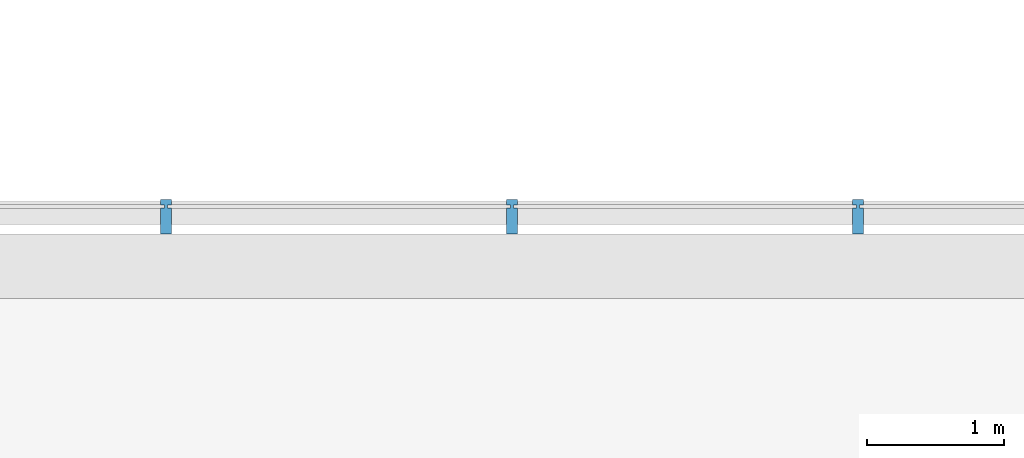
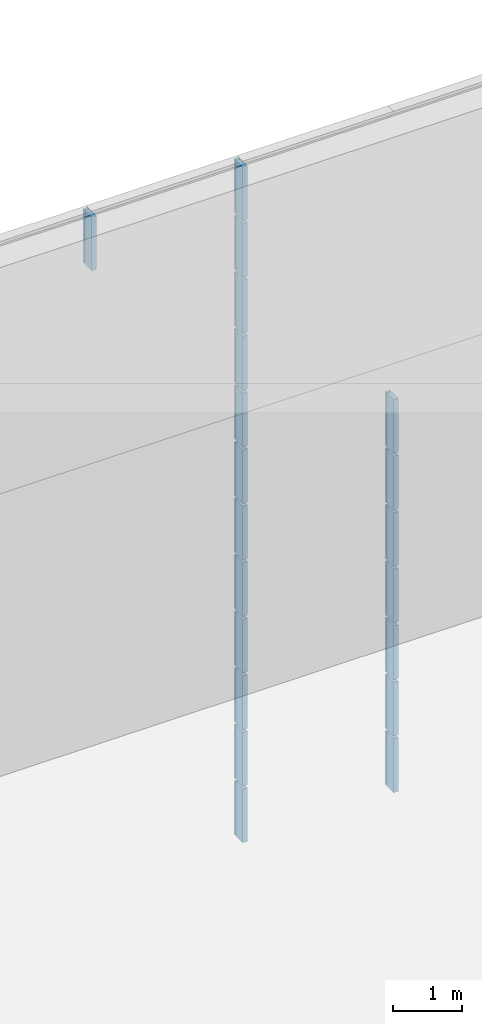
# One storey, part 91 of 105: 20 building element parts, 4 elements without a shape of their own.
"""IFC4 building model written with IfcOpenShell, lengths in millimetres."""

from ifc_helpers import new_model, entity, si_unit, converted_unit, derived_unit, direction, frame, origin_with_axes, place, context, subcontext, project, spatial, triangles, material, element, aggregate, save


model = new_model("IFC4")

# Units and contexts
model_context = context("Model", 3, precision=1e-05, world=origin_with_axes(), true_north=direction((0.0, 1.0)))
body_context = subcontext(model_context, "Body", "Model", "MODEL_VIEW")
ifc_project = project(units=[si_unit("LENGTHUNIT", "METRE", prefix="MILLI"), si_unit("AREAUNIT", "SQUARE_METRE"), si_unit("VOLUMEUNIT", "CUBIC_METRE"), converted_unit("PLANEANGLEUNIT", "DEGREE", entity("IfcLengthMeasure", 0.017453), si_unit("PLANEANGLEUNIT", "RADIAN"), dimensions=[0, 0, 0, 0, 0, 0, 0]), si_unit("SOLIDANGLEUNIT", "STERADIAN"), si_unit("MASSUNIT", "GRAM"), si_unit("TIMEUNIT", "SECOND"), si_unit("THERMODYNAMICTEMPERATUREUNIT", "DEGREE_CELSIUS"), si_unit("LUMINOUSINTENSITYUNIT", "LUMEN"), si_unit("POWERUNIT", "WATT"), derived_unit("THERMALTRANSMITTANCEUNIT", [(si_unit("POWERUNIT", "WATT"), 1), (si_unit("THERMODYNAMICTEMPERATUREUNIT", "KELVIN"), -1), (si_unit("AREAUNIT", "SQUARE_METRE"), -1)])], contexts=[model_context])

# Site, building, storey
site_placement = place(None, origin_with_axes())
site = spatial("IfcSite", under=ifc_project, at=site_placement, Name="Default Site", CompositionType="ELEMENT")
building_placement = place(site_placement, origin_with_axes())
building = spatial("IfcBuilding", under=site, at=building_placement, Name="Default Building", CompositionType="ELEMENT")
storey_placement = place(building_placement, origin_with_axes())
storey = spatial("IfcBuildingStorey", under=building, at=storey_placement, Name="OG - Story", CompositionType="ELEMENT", Elevation=0.0)

# Curtain wall, building element parts
curtain_wall_1_placement = place(storey_placement, origin_with_axes())
curtain_wall_1 = element("IfcCurtainWall", 1, at=curtain_wall_1_placement, inside=storey, Name="Fassade-004", PredefinedType="NOTDEFINED")
ifc_material = material(Name="Blech")
building_element_part_1_placement = place(curtain_wall_1_placement, frame((33014.549222, -4389.262838, 0.0), z_axis=(0.0, 0.0, 1.0), x_axis=(1.0, 0.0, 0.0)))
building_element_part_1 = element("IfcBuildingElementPart", 2, at=building_element_part_1_placement, material=ifc_material, Name="Blech", PredefinedType="NOTDEFINED", context=body_context, shape_type="Tessellation", body=[
    triangles([(26566.316, -9.999, 975.0), (26566.316, -199.999, 975.0), (26536.316, -9.999, 975.0), (26516.316, -9.999, 975.0), (26536.316, 10.0, 975.0), (26566.316, 50.0, 975.0), (26566.316, 10.0, 975.0), (26486.316, -199.999, 975.0), (26486.316, -9.999, 975.0), (26516.316, 10.0, 975.0), (26486.316, 10.0, 975.0), (26486.316, 50.0, 975.0), (26536.316, -9.999, 25.0), (26536.316, 10.0, 25.0), (26566.316, 10.0, 25.0), (26566.316, 50.0, 25.0), (26486.316, 50.0, 25.0), (26486.316, 10.0, 25.0), (26516.316, 10.0, 25.0), (26516.316, -9.999, 25.0), (26486.316, -9.999, 25.0), (26486.316, -199.999, 25.0), (26566.316, -199.999, 25.0), (26566.316, -9.999, 25.0)], [[1, 2, 3], [3, 2, 4], [3, 4, 5], [5, 4, 6], [5, 6, 7], [8, 9, 4], [8, 4, 2], [6, 4, 10], [6, 10, 11], [6, 11, 12], [3, 13, 14], [3, 14, 5], [5, 14, 15], [5, 15, 7], [15, 16, 6], [15, 6, 7], [12, 6, 16], [12, 16, 17], [18, 11, 12], [18, 12, 17], [11, 18, 19], [11, 19, 10], [4, 10, 19], [4, 19, 20], [9, 4, 20], [9, 20, 21], [9, 21, 22], [9, 22, 8], [2, 8, 22], [2, 22, 23], [1, 2, 23], [1, 23, 24], [1, 24, 13], [1, 13, 3], [15, 16, 14], [14, 16, 19], [14, 19, 13], [13, 19, 23], [13, 23, 24], [17, 18, 19], [17, 19, 16], [23, 19, 20], [23, 20, 21], [23, 21, 22]], closed=False),
])
building_element_part_2_placement = place(curtain_wall_1_placement, frame((33014.549222, -4389.262838, 0.0), z_axis=(0.0, 0.0, 1.0), x_axis=(1.0, 0.0, 0.0)))
building_element_part_2 = element("IfcBuildingElementPart", 3, at=building_element_part_2_placement, material=ifc_material, Name="Blech", PredefinedType="NOTDEFINED", context=body_context, shape_type="Tessellation", body=[
    triangles([(29092.632, -9.999, 975.0), (29092.632, -199.999, 975.0), (29062.632, -9.999, 975.0), (29042.632, -9.999, 975.0), (29062.632, 10.0, 975.0), (29092.632, 50.0, 975.0), (29092.632, 10.0, 975.0), (29012.632, -199.999, 975.0), (29012.632, -9.999, 975.0), (29042.632, 10.0, 975.0), (29012.632, 10.0, 975.0), (29012.632, 50.0, 975.0), (29062.632, -9.999, 25.0), (29062.632, 10.0, 25.0), (29092.632, 10.0, 25.0), (29092.632, 50.0, 25.0), (29012.632, 50.0, 25.0), (29012.632, 10.0, 25.0), (29042.632, 10.0, 25.0), (29042.632, -9.999, 25.0), (29012.632, -9.999, 25.0), (29012.632, -199.999, 25.0), (29092.632, -199.999, 25.0), (29092.632, -9.999, 25.0)], [[1, 2, 3], [3, 2, 4], [3, 4, 5], [5, 4, 6], [5, 6, 7], [8, 9, 4], [8, 4, 2], [6, 4, 10], [6, 10, 11], [6, 11, 12], [3, 13, 14], [3, 14, 5], [5, 14, 15], [5, 15, 7], [15, 16, 6], [15, 6, 7], [12, 6, 16], [12, 16, 17], [18, 11, 12], [18, 12, 17], [11, 18, 19], [11, 19, 10], [4, 10, 19], [4, 19, 20], [9, 4, 20], [9, 20, 21], [9, 21, 22], [9, 22, 8], [2, 8, 22], [2, 22, 23], [1, 2, 23], [1, 23, 24], [1, 24, 13], [1, 13, 3], [15, 16, 14], [14, 16, 19], [14, 19, 13], [13, 19, 23], [13, 23, 24], [17, 18, 19], [17, 19, 16], [23, 19, 20], [23, 20, 21], [23, 21, 22]], closed=False),
])
building_element_part_3_placement = place(curtain_wall_1_placement, frame((33014.549222, -4389.262838, 0.0), z_axis=(0.0, 0.0, 1.0), x_axis=(1.0, 0.0, 0.0)))
building_element_part_3 = element("IfcBuildingElementPart", 4, at=building_element_part_3_placement, material=ifc_material, Name="Blech", PredefinedType="NOTDEFINED", context=body_context, shape_type="Tessellation", body=[
    triangles([(26566.316, -9.999, 1975.0), (26566.316, -199.999, 1975.0), (26536.316, -9.999, 1975.0), (26516.316, -9.999, 1975.0), (26536.316, 10.0, 1975.0), (26566.316, 50.0, 1975.0), (26566.316, 10.0, 1975.0), (26486.316, -199.999, 1975.0), (26486.316, -9.999, 1975.0), (26516.316, 10.0, 1975.0), (26486.316, 10.0, 1975.0), (26486.316, 50.0, 1975.0), (26536.316, -9.999, 1025.0), (26536.316, 10.0, 1025.0), (26566.316, 10.0, 1025.0), (26566.316, 50.0, 1025.0), (26486.316, 50.0, 1025.0), (26486.316, 10.0, 1025.0), (26516.316, 10.0, 1025.0), (26516.316, -9.999, 1025.0), (26486.316, -9.999, 1025.0), (26486.316, -199.999, 1025.0), (26566.316, -199.999, 1025.0), (26566.316, -9.999, 1025.0)], [[1, 2, 3], [3, 2, 4], [3, 4, 5], [5, 4, 6], [5, 6, 7], [8, 9, 4], [8, 4, 2], [6, 4, 10], [6, 10, 11], [6, 11, 12], [3, 13, 14], [3, 14, 5], [5, 14, 15], [5, 15, 7], [15, 16, 6], [15, 6, 7], [12, 6, 16], [12, 16, 17], [18, 11, 12], [18, 12, 17], [11, 18, 19], [11, 19, 10], [4, 10, 19], [4, 19, 20], [9, 4, 20], [9, 20, 21], [9, 21, 22], [9, 22, 8], [2, 8, 22], [2, 22, 23], [1, 2, 23], [1, 23, 24], [1, 24, 13], [1, 13, 3], [15, 16, 14], [14, 16, 19], [14, 19, 13], [13, 19, 23], [13, 23, 24], [17, 18, 19], [17, 19, 16], [23, 19, 20], [23, 20, 21], [23, 21, 22]], closed=False),
])
building_element_part_4_placement = place(curtain_wall_1_placement, frame((33014.549222, -4389.262838, 0.0), z_axis=(0.0, 0.0, 1.0), x_axis=(1.0, 0.0, 0.0)))
building_element_part_4 = element("IfcBuildingElementPart", 5, at=building_element_part_4_placement, material=ifc_material, Name="Blech", PredefinedType="NOTDEFINED", context=body_context, shape_type="Tessellation", body=[
    triangles([(29092.632, -9.999, 1975.0), (29092.632, -199.999, 1975.0), (29062.632, -9.999, 1975.0), (29042.632, -9.999, 1975.0), (29062.632, 10.0, 1975.0), (29092.632, 50.0, 1975.0), (29092.632, 10.0, 1975.0), (29012.632, -199.999, 1975.0), (29012.632, -9.999, 1975.0), (29042.632, 10.0, 1975.0), (29012.632, 10.0, 1975.0), (29012.632, 50.0, 1975.0), (29062.632, -9.999, 1025.0), (29062.632, 10.0, 1025.0), (29092.632, 10.0, 1025.0), (29092.632, 50.0, 1025.0), (29012.632, 50.0, 1025.0), (29012.632, 10.0, 1025.0), (29042.632, 10.0, 1025.0), (29042.632, -9.999, 1025.0), (29012.632, -9.999, 1025.0), (29012.632, -199.999, 1025.0), (29092.632, -199.999, 1025.0), (29092.632, -9.999, 1025.0)], [[1, 2, 3], [3, 2, 4], [3, 4, 5], [5, 4, 6], [5, 6, 7], [8, 9, 4], [8, 4, 2], [6, 4, 10], [6, 10, 11], [6, 11, 12], [3, 13, 14], [3, 14, 5], [5, 14, 15], [5, 15, 7], [15, 16, 6], [15, 6, 7], [12, 6, 16], [12, 16, 17], [18, 11, 12], [18, 12, 17], [11, 18, 19], [11, 19, 10], [4, 10, 19], [4, 19, 20], [9, 4, 20], [9, 20, 21], [9, 21, 22], [9, 22, 8], [2, 8, 22], [2, 22, 23], [1, 2, 23], [1, 23, 24], [1, 24, 13], [1, 13, 3], [15, 16, 14], [14, 16, 19], [14, 19, 13], [13, 19, 23], [13, 23, 24], [17, 18, 19], [17, 19, 16], [23, 19, 20], [23, 20, 21], [23, 21, 22]], closed=False),
])
building_element_part_5_placement = place(curtain_wall_1_placement, frame((33014.549222, -4389.262838, 0.0), z_axis=(0.0, 0.0, 1.0), x_axis=(1.0, 0.0, 0.0)))
building_element_part_5 = element("IfcBuildingElementPart", 6, at=building_element_part_5_placement, material=ifc_material, Name="Blech", PredefinedType="NOTDEFINED", context=body_context, shape_type="Tessellation", body=[
    triangles([(26566.316, -9.999, 2975.0), (26566.316, -199.999, 2975.0), (26536.316, -9.999, 2975.0), (26516.316, -9.999, 2975.0), (26536.316, 10.0, 2975.0), (26566.316, 50.0, 2975.0), (26566.316, 10.0, 2975.0), (26486.316, -199.999, 2975.0), (26486.316, -9.999, 2975.0), (26516.316, 10.0, 2975.0), (26486.316, 10.0, 2975.0), (26486.316, 50.0, 2975.0), (26536.316, -9.999, 2025.0), (26536.316, 10.0, 2025.0), (26566.316, 10.0, 2025.0), (26566.316, 50.0, 2025.0), (26486.316, 50.0, 2025.0), (26486.316, 10.0, 2025.0), (26516.316, 10.0, 2025.0), (26516.316, -9.999, 2025.0), (26486.316, -9.999, 2025.0), (26486.316, -199.999, 2025.0), (26566.316, -199.999, 2025.0), (26566.316, -9.999, 2025.0)], [[1, 2, 3], [3, 2, 4], [3, 4, 5], [5, 4, 6], [5, 6, 7], [8, 9, 4], [8, 4, 2], [6, 4, 10], [6, 10, 11], [6, 11, 12], [3, 13, 14], [3, 14, 5], [5, 14, 15], [5, 15, 7], [15, 16, 6], [15, 6, 7], [12, 6, 16], [12, 16, 17], [18, 11, 12], [18, 12, 17], [11, 18, 19], [11, 19, 10], [4, 10, 19], [4, 19, 20], [9, 4, 20], [9, 20, 21], [9, 21, 22], [9, 22, 8], [2, 8, 22], [2, 22, 23], [1, 2, 23], [1, 23, 24], [1, 24, 13], [1, 13, 3], [15, 16, 14], [14, 16, 19], [14, 19, 13], [13, 19, 23], [13, 23, 24], [17, 18, 19], [17, 19, 16], [23, 19, 20], [23, 20, 21], [23, 21, 22]], closed=False),
])
building_element_part_6_placement = place(curtain_wall_1_placement, frame((33014.549222, -4389.262838, 0.0), z_axis=(0.0, 0.0, 1.0), x_axis=(1.0, 0.0, 0.0)))
building_element_part_6 = element("IfcBuildingElementPart", 7, at=building_element_part_6_placement, material=ifc_material, Name="Blech", PredefinedType="NOTDEFINED", context=body_context, shape_type="Tessellation", body=[
    triangles([(29092.632, -9.999, 2975.0), (29092.632, -199.999, 2975.0), (29062.632, -9.999, 2975.0), (29042.632, -9.999, 2975.0), (29062.632, 10.0, 2975.0), (29092.632, 50.0, 2975.0), (29092.632, 10.0, 2975.0), (29012.632, -199.999, 2975.0), (29012.632, -9.999, 2975.0), (29042.632, 10.0, 2975.0), (29012.632, 10.0, 2975.0), (29012.632, 50.0, 2975.0), (29062.632, -9.999, 2025.0), (29062.632, 10.0, 2025.0), (29092.632, 10.0, 2025.0), (29092.632, 50.0, 2025.0), (29012.632, 50.0, 2025.0), (29012.632, 10.0, 2025.0), (29042.632, 10.0, 2025.0), (29042.632, -9.999, 2025.0), (29012.632, -9.999, 2025.0), (29012.632, -199.999, 2025.0), (29092.632, -199.999, 2025.0), (29092.632, -9.999, 2025.0)], [[1, 2, 3], [3, 2, 4], [3, 4, 5], [5, 4, 6], [5, 6, 7], [8, 9, 4], [8, 4, 2], [6, 4, 10], [6, 10, 11], [6, 11, 12], [3, 13, 14], [3, 14, 5], [5, 14, 15], [5, 15, 7], [15, 16, 6], [15, 6, 7], [12, 6, 16], [12, 16, 17], [18, 11, 12], [18, 12, 17], [11, 18, 19], [11, 19, 10], [4, 10, 19], [4, 19, 20], [9, 4, 20], [9, 20, 21], [9, 21, 22], [9, 22, 8], [2, 8, 22], [2, 22, 23], [1, 2, 23], [1, 23, 24], [1, 24, 13], [1, 13, 3], [15, 16, 14], [14, 16, 19], [14, 19, 13], [13, 19, 23], [13, 23, 24], [17, 18, 19], [17, 19, 16], [23, 19, 20], [23, 20, 21], [23, 21, 22]], closed=False),
])
aggregate(curtain_wall_1, [building_element_part_1, building_element_part_2, building_element_part_3, building_element_part_4, building_element_part_5, building_element_part_6])

curtain_wall_2_placement = place(storey_placement, origin_with_axes())
curtain_wall_2 = element("IfcCurtainWall", 8, at=curtain_wall_2_placement, inside=storey, Name="Fassade-004", PredefinedType="NOTDEFINED")
building_element_part_7_placement = place(curtain_wall_2_placement, frame((33014.549222, -4389.262838, 3000.0), z_axis=(0.0, 0.0, 1.0), x_axis=(1.0, 0.0, 0.0)))
building_element_part_7 = element("IfcBuildingElementPart", 9, at=building_element_part_7_placement, material=ifc_material, Name="Blech", PredefinedType="NOTDEFINED", context=body_context, shape_type="Tessellation", body=[
    triangles([(26566.316, -9.999, 975.0), (26566.316, -199.999, 975.0), (26536.316, -9.999, 975.0), (26516.316, -9.999, 975.0), (26536.316, 10.0, 975.0), (26566.316, 50.0, 975.0), (26566.316, 10.0, 975.0), (26486.316, -199.999, 975.0), (26486.316, -9.999, 975.0), (26516.316, 10.0, 975.0), (26486.316, 10.0, 975.0), (26486.316, 50.0, 975.0), (26536.316, -9.999, 25.0), (26536.316, 10.0, 25.0), (26566.316, 10.0, 25.0), (26566.316, 50.0, 25.0), (26486.316, 50.0, 25.0), (26486.316, 10.0, 25.0), (26516.316, 10.0, 25.0), (26516.316, -9.999, 25.0), (26486.316, -9.999, 25.0), (26486.316, -199.999, 25.0), (26566.316, -199.999, 25.0), (26566.316, -9.999, 25.0)], [[1, 2, 3], [3, 2, 4], [3, 4, 5], [5, 4, 6], [5, 6, 7], [8, 9, 4], [8, 4, 2], [6, 4, 10], [6, 10, 11], [6, 11, 12], [3, 13, 14], [3, 14, 5], [5, 14, 15], [5, 15, 7], [15, 16, 6], [15, 6, 7], [12, 6, 16], [12, 16, 17], [18, 11, 12], [18, 12, 17], [11, 18, 19], [11, 19, 10], [4, 10, 19], [4, 19, 20], [9, 4, 20], [9, 20, 21], [9, 21, 22], [9, 22, 8], [2, 8, 22], [2, 22, 23], [1, 2, 23], [1, 23, 24], [1, 24, 13], [1, 13, 3], [15, 16, 14], [14, 16, 19], [14, 19, 13], [13, 19, 23], [13, 23, 24], [17, 18, 19], [17, 19, 16], [23, 19, 20], [23, 20, 21], [23, 21, 22]], closed=False),
])
building_element_part_8_placement = place(curtain_wall_2_placement, frame((33014.549222, -4389.262838, 3000.0), z_axis=(0.0, 0.0, 1.0), x_axis=(1.0, 0.0, 0.0)))
building_element_part_8 = element("IfcBuildingElementPart", 10, at=building_element_part_8_placement, material=ifc_material, Name="Blech", PredefinedType="NOTDEFINED", context=body_context, shape_type="Tessellation", body=[
    triangles([(29092.632, -9.999, 975.0), (29092.632, -199.999, 975.0), (29062.632, -9.999, 975.0), (29042.632, -9.999, 975.0), (29062.632, 10.0, 975.0), (29092.632, 50.0, 975.0), (29092.632, 10.0, 975.0), (29012.632, -199.999, 975.0), (29012.632, -9.999, 975.0), (29042.632, 10.0, 975.0), (29012.632, 10.0, 975.0), (29012.632, 50.0, 975.0), (29062.632, -9.999, 25.0), (29062.632, 10.0, 25.0), (29092.632, 10.0, 25.0), (29092.632, 50.0, 25.0), (29012.632, 50.0, 25.0), (29012.632, 10.0, 25.0), (29042.632, 10.0, 25.0), (29042.632, -9.999, 25.0), (29012.632, -9.999, 25.0), (29012.632, -199.999, 25.0), (29092.632, -199.999, 25.0), (29092.632, -9.999, 25.0)], [[1, 2, 3], [3, 2, 4], [3, 4, 5], [5, 4, 6], [5, 6, 7], [8, 9, 4], [8, 4, 2], [6, 4, 10], [6, 10, 11], [6, 11, 12], [3, 13, 14], [3, 14, 5], [5, 14, 15], [5, 15, 7], [15, 16, 6], [15, 6, 7], [12, 6, 16], [12, 16, 17], [18, 11, 12], [18, 12, 17], [11, 18, 19], [11, 19, 10], [4, 10, 19], [4, 19, 20], [9, 4, 20], [9, 20, 21], [9, 21, 22], [9, 22, 8], [2, 8, 22], [2, 22, 23], [1, 2, 23], [1, 23, 24], [1, 24, 13], [1, 13, 3], [15, 16, 14], [14, 16, 19], [14, 19, 13], [13, 19, 23], [13, 23, 24], [17, 18, 19], [17, 19, 16], [23, 19, 20], [23, 20, 21], [23, 21, 22]], closed=False),
])
building_element_part_9_placement = place(curtain_wall_2_placement, frame((33014.549222, -4389.262838, 3000.0), z_axis=(0.0, 0.0, 1.0), x_axis=(1.0, 0.0, 0.0)))
building_element_part_9 = element("IfcBuildingElementPart", 11, at=building_element_part_9_placement, material=ifc_material, Name="Blech", PredefinedType="NOTDEFINED", context=body_context, shape_type="Tessellation", body=[
    triangles([(26566.316, -9.999, 1975.0), (26566.316, -199.999, 1975.0), (26536.316, -9.999, 1975.0), (26516.316, -9.999, 1975.0), (26536.316, 10.0, 1975.0), (26566.316, 50.0, 1975.0), (26566.316, 10.0, 1975.0), (26486.316, -199.999, 1975.0), (26486.316, -9.999, 1975.0), (26516.316, 10.0, 1975.0), (26486.316, 10.0, 1975.0), (26486.316, 50.0, 1975.0), (26536.316, -9.999, 1025.0), (26536.316, 10.0, 1025.0), (26566.316, 10.0, 1025.0), (26566.316, 50.0, 1025.0), (26486.316, 50.0, 1025.0), (26486.316, 10.0, 1025.0), (26516.316, 10.0, 1025.0), (26516.316, -9.999, 1025.0), (26486.316, -9.999, 1025.0), (26486.316, -199.999, 1025.0), (26566.316, -199.999, 1025.0), (26566.316, -9.999, 1025.0)], [[1, 2, 3], [3, 2, 4], [3, 4, 5], [5, 4, 6], [5, 6, 7], [8, 9, 4], [8, 4, 2], [6, 4, 10], [6, 10, 11], [6, 11, 12], [3, 13, 14], [3, 14, 5], [5, 14, 15], [5, 15, 7], [15, 16, 6], [15, 6, 7], [12, 6, 16], [12, 16, 17], [18, 11, 12], [18, 12, 17], [11, 18, 19], [11, 19, 10], [4, 10, 19], [4, 19, 20], [9, 4, 20], [9, 20, 21], [9, 21, 22], [9, 22, 8], [2, 8, 22], [2, 22, 23], [1, 2, 23], [1, 23, 24], [1, 24, 13], [1, 13, 3], [15, 16, 14], [14, 16, 19], [14, 19, 13], [13, 19, 23], [13, 23, 24], [17, 18, 19], [17, 19, 16], [23, 19, 20], [23, 20, 21], [23, 21, 22]], closed=False),
])
building_element_part_10_placement = place(curtain_wall_2_placement, frame((33014.549222, -4389.262838, 3000.0), z_axis=(0.0, 0.0, 1.0), x_axis=(1.0, 0.0, 0.0)))
building_element_part_10 = element("IfcBuildingElementPart", 12, at=building_element_part_10_placement, material=ifc_material, Name="Blech", PredefinedType="NOTDEFINED", context=body_context, shape_type="Tessellation", body=[
    triangles([(29092.632, -9.999, 1975.0), (29092.632, -199.999, 1975.0), (29062.632, -9.999, 1975.0), (29042.632, -9.999, 1975.0), (29062.632, 10.0, 1975.0), (29092.632, 50.0, 1975.0), (29092.632, 10.0, 1975.0), (29012.632, -199.999, 1975.0), (29012.632, -9.999, 1975.0), (29042.632, 10.0, 1975.0), (29012.632, 10.0, 1975.0), (29012.632, 50.0, 1975.0), (29062.632, -9.999, 1025.0), (29062.632, 10.0, 1025.0), (29092.632, 10.0, 1025.0), (29092.632, 50.0, 1025.0), (29012.632, 50.0, 1025.0), (29012.632, 10.0, 1025.0), (29042.632, 10.0, 1025.0), (29042.632, -9.999, 1025.0), (29012.632, -9.999, 1025.0), (29012.632, -199.999, 1025.0), (29092.632, -199.999, 1025.0), (29092.632, -9.999, 1025.0)], [[1, 2, 3], [3, 2, 4], [3, 4, 5], [5, 4, 6], [5, 6, 7], [8, 9, 4], [8, 4, 2], [6, 4, 10], [6, 10, 11], [6, 11, 12], [3, 13, 14], [3, 14, 5], [5, 14, 15], [5, 15, 7], [15, 16, 6], [15, 6, 7], [12, 6, 16], [12, 16, 17], [18, 11, 12], [18, 12, 17], [11, 18, 19], [11, 19, 10], [4, 10, 19], [4, 19, 20], [9, 4, 20], [9, 20, 21], [9, 21, 22], [9, 22, 8], [2, 8, 22], [2, 22, 23], [1, 2, 23], [1, 23, 24], [1, 24, 13], [1, 13, 3], [15, 16, 14], [14, 16, 19], [14, 19, 13], [13, 19, 23], [13, 23, 24], [17, 18, 19], [17, 19, 16], [23, 19, 20], [23, 20, 21], [23, 21, 22]], closed=False),
])
building_element_part_11_placement = place(curtain_wall_2_placement, frame((33014.549222, -4389.262838, 3000.0), z_axis=(0.0, 0.0, 1.0), x_axis=(1.0, 0.0, 0.0)))
building_element_part_11 = element("IfcBuildingElementPart", 13, at=building_element_part_11_placement, material=ifc_material, Name="Blech", PredefinedType="NOTDEFINED", context=body_context, shape_type="Tessellation", body=[
    triangles([(26566.316, -9.999, 2975.0), (26566.316, -199.999, 2975.0), (26536.316, -9.999, 2975.0), (26516.316, -9.999, 2975.0), (26536.316, 10.0, 2975.0), (26566.316, 50.0, 2975.0), (26566.316, 10.0, 2975.0), (26486.316, -199.999, 2975.0), (26486.316, -9.999, 2975.0), (26516.316, 10.0, 2975.0), (26486.316, 10.0, 2975.0), (26486.316, 50.0, 2975.0), (26536.316, -9.999, 2025.0), (26536.316, 10.0, 2025.0), (26566.316, 10.0, 2025.0), (26566.316, 50.0, 2025.0), (26486.316, 50.0, 2025.0), (26486.316, 10.0, 2025.0), (26516.316, 10.0, 2025.0), (26516.316, -9.999, 2025.0), (26486.316, -9.999, 2025.0), (26486.316, -199.999, 2025.0), (26566.316, -199.999, 2025.0), (26566.316, -9.999, 2025.0)], [[1, 2, 3], [3, 2, 4], [3, 4, 5], [5, 4, 6], [5, 6, 7], [8, 9, 4], [8, 4, 2], [6, 4, 10], [6, 10, 11], [6, 11, 12], [3, 13, 14], [3, 14, 5], [5, 14, 15], [5, 15, 7], [15, 16, 6], [15, 6, 7], [12, 6, 16], [12, 16, 17], [18, 11, 12], [18, 12, 17], [11, 18, 19], [11, 19, 10], [4, 10, 19], [4, 19, 20], [9, 4, 20], [9, 20, 21], [9, 21, 22], [9, 22, 8], [2, 8, 22], [2, 22, 23], [1, 2, 23], [1, 23, 24], [1, 24, 13], [1, 13, 3], [15, 16, 14], [14, 16, 19], [14, 19, 13], [13, 19, 23], [13, 23, 24], [17, 18, 19], [17, 19, 16], [23, 19, 20], [23, 20, 21], [23, 21, 22]], closed=False),
])
building_element_part_12_placement = place(curtain_wall_2_placement, frame((33014.549222, -4389.262838, 3000.0), z_axis=(0.0, 0.0, 1.0), x_axis=(1.0, 0.0, 0.0)))
building_element_part_12 = element("IfcBuildingElementPart", 14, at=building_element_part_12_placement, material=ifc_material, Name="Blech", PredefinedType="NOTDEFINED", context=body_context, shape_type="Tessellation", body=[
    triangles([(29092.632, -9.999, 2975.0), (29092.632, -199.999, 2975.0), (29062.632, -9.999, 2975.0), (29042.632, -9.999, 2975.0), (29062.632, 10.0, 2975.0), (29092.632, 50.0, 2975.0), (29092.632, 10.0, 2975.0), (29012.632, -199.999, 2975.0), (29012.632, -9.999, 2975.0), (29042.632, 10.0, 2975.0), (29012.632, 10.0, 2975.0), (29012.632, 50.0, 2975.0), (29062.632, -9.999, 2025.0), (29062.632, 10.0, 2025.0), (29092.632, 10.0, 2025.0), (29092.632, 50.0, 2025.0), (29012.632, 50.0, 2025.0), (29012.632, 10.0, 2025.0), (29042.632, 10.0, 2025.0), (29042.632, -9.999, 2025.0), (29012.632, -9.999, 2025.0), (29012.632, -199.999, 2025.0), (29092.632, -199.999, 2025.0), (29092.632, -9.999, 2025.0)], [[1, 2, 3], [3, 2, 4], [3, 4, 5], [5, 4, 6], [5, 6, 7], [8, 9, 4], [8, 4, 2], [6, 4, 10], [6, 10, 11], [6, 11, 12], [3, 13, 14], [3, 14, 5], [5, 14, 15], [5, 15, 7], [15, 16, 6], [15, 6, 7], [12, 6, 16], [12, 16, 17], [18, 11, 12], [18, 12, 17], [11, 18, 19], [11, 19, 10], [4, 10, 19], [4, 19, 20], [9, 4, 20], [9, 20, 21], [9, 21, 22], [9, 22, 8], [2, 8, 22], [2, 22, 23], [1, 2, 23], [1, 23, 24], [1, 24, 13], [1, 13, 3], [15, 16, 14], [14, 16, 19], [14, 19, 13], [13, 19, 23], [13, 23, 24], [17, 18, 19], [17, 19, 16], [23, 19, 20], [23, 20, 21], [23, 21, 22]], closed=False),
])
aggregate(curtain_wall_2, [building_element_part_7, building_element_part_8, building_element_part_9, building_element_part_10, building_element_part_11, building_element_part_12])

curtain_wall_3_placement = place(storey_placement, origin_with_axes())
curtain_wall_3 = element("IfcCurtainWall", 15, at=curtain_wall_3_placement, inside=storey, Name="Fassade-004", PredefinedType="NOTDEFINED")
building_element_part_13_placement = place(curtain_wall_3_placement, frame((33014.549222, -4389.262838, 6000.0), z_axis=(0.0, 0.0, 1.0), x_axis=(1.0, 0.0, 0.0)))
building_element_part_13 = element("IfcBuildingElementPart", 16, at=building_element_part_13_placement, material=ifc_material, Name="Blech", PredefinedType="NOTDEFINED", context=body_context, shape_type="Tessellation", body=[
    triangles([(26566.316, -9.999, 975.0), (26566.316, -199.999, 975.0), (26536.316, -9.999, 975.0), (26516.316, -9.999, 975.0), (26536.316, 10.0, 975.0), (26566.316, 50.0, 975.0), (26566.316, 10.0, 975.0), (26486.316, -199.999, 975.0), (26486.316, -9.999, 975.0), (26516.316, 10.0, 975.0), (26486.316, 10.0, 975.0), (26486.316, 50.0, 975.0), (26536.316, -9.999, 25.0), (26536.316, 10.0, 25.0), (26566.316, 10.0, 25.0), (26566.316, 50.0, 25.0), (26486.316, 50.0, 25.0), (26486.316, 10.0, 25.0), (26516.316, 10.0, 25.0), (26516.316, -9.999, 25.0), (26486.316, -9.999, 25.0), (26486.316, -199.999, 25.0), (26566.316, -199.999, 25.0), (26566.316, -9.999, 25.0)], [[1, 2, 3], [3, 2, 4], [3, 4, 5], [5, 4, 6], [5, 6, 7], [8, 9, 4], [8, 4, 2], [6, 4, 10], [6, 10, 11], [6, 11, 12], [3, 13, 14], [3, 14, 5], [5, 14, 15], [5, 15, 7], [15, 16, 6], [15, 6, 7], [12, 6, 16], [12, 16, 17], [18, 11, 12], [18, 12, 17], [11, 18, 19], [11, 19, 10], [4, 10, 19], [4, 19, 20], [9, 4, 20], [9, 20, 21], [9, 21, 22], [9, 22, 8], [2, 8, 22], [2, 22, 23], [1, 2, 23], [1, 23, 24], [1, 24, 13], [1, 13, 3], [15, 16, 14], [14, 16, 19], [14, 19, 13], [13, 19, 23], [13, 23, 24], [17, 18, 19], [17, 19, 16], [23, 19, 20], [23, 20, 21], [23, 21, 22]], closed=False),
])
building_element_part_14_placement = place(curtain_wall_3_placement, frame((33014.549222, -4389.262838, 6000.0), z_axis=(0.0, 0.0, 1.0), x_axis=(1.0, 0.0, 0.0)))
building_element_part_14 = element("IfcBuildingElementPart", 17, at=building_element_part_14_placement, material=ifc_material, Name="Blech", PredefinedType="NOTDEFINED", context=body_context, shape_type="Tessellation", body=[
    triangles([(29092.632, -9.999, 975.0), (29092.632, -199.999, 975.0), (29062.632, -9.999, 975.0), (29042.632, -9.999, 975.0), (29062.632, 10.0, 975.0), (29092.632, 50.0, 975.0), (29092.632, 10.0, 975.0), (29012.632, -199.999, 975.0), (29012.632, -9.999, 975.0), (29042.632, 10.0, 975.0), (29012.632, 10.0, 975.0), (29012.632, 50.0, 975.0), (29062.632, -9.999, 25.0), (29062.632, 10.0, 25.0), (29092.632, 10.0, 25.0), (29092.632, 50.0, 25.0), (29012.632, 50.0, 25.0), (29012.632, 10.0, 25.0), (29042.632, 10.0, 25.0), (29042.632, -9.999, 25.0), (29012.632, -9.999, 25.0), (29012.632, -199.999, 25.0), (29092.632, -199.999, 25.0), (29092.632, -9.999, 25.0)], [[1, 2, 3], [3, 2, 4], [3, 4, 5], [5, 4, 6], [5, 6, 7], [8, 9, 4], [8, 4, 2], [6, 4, 10], [6, 10, 11], [6, 11, 12], [3, 13, 14], [3, 14, 5], [5, 14, 15], [5, 15, 7], [15, 16, 6], [15, 6, 7], [12, 6, 16], [12, 16, 17], [18, 11, 12], [18, 12, 17], [11, 18, 19], [11, 19, 10], [4, 10, 19], [4, 19, 20], [9, 4, 20], [9, 20, 21], [9, 21, 22], [9, 22, 8], [2, 8, 22], [2, 22, 23], [1, 2, 23], [1, 23, 24], [1, 24, 13], [1, 13, 3], [15, 16, 14], [14, 16, 19], [14, 19, 13], [13, 19, 23], [13, 23, 24], [17, 18, 19], [17, 19, 16], [23, 19, 20], [23, 20, 21], [23, 21, 22]], closed=False),
])
building_element_part_15_placement = place(curtain_wall_3_placement, frame((33014.549222, -4389.262838, 6000.0), z_axis=(0.0, 0.0, 1.0), x_axis=(1.0, 0.0, 0.0)))
building_element_part_15 = element("IfcBuildingElementPart", 18, at=building_element_part_15_placement, material=ifc_material, Name="Blech", PredefinedType="NOTDEFINED", context=body_context, shape_type="Tessellation", body=[
    triangles([(26566.316, -9.999, 1975.0), (26566.316, -199.999, 1975.0), (26536.316, -9.999, 1975.0), (26516.316, -9.999, 1975.0), (26536.316, 10.0, 1975.0), (26566.316, 50.0, 1975.0), (26566.316, 10.0, 1975.0), (26486.316, -199.999, 1975.0), (26486.316, -9.999, 1975.0), (26516.316, 10.0, 1975.0), (26486.316, 10.0, 1975.0), (26486.316, 50.0, 1975.0), (26536.316, -9.999, 1025.0), (26536.316, 10.0, 1025.0), (26566.316, 10.0, 1025.0), (26566.316, 50.0, 1025.0), (26486.316, 50.0, 1025.0), (26486.316, 10.0, 1025.0), (26516.316, 10.0, 1025.0), (26516.316, -9.999, 1025.0), (26486.316, -9.999, 1025.0), (26486.316, -199.999, 1025.0), (26566.316, -199.999, 1025.0), (26566.316, -9.999, 1025.0)], [[1, 2, 3], [3, 2, 4], [3, 4, 5], [5, 4, 6], [5, 6, 7], [8, 9, 4], [8, 4, 2], [6, 4, 10], [6, 10, 11], [6, 11, 12], [3, 13, 14], [3, 14, 5], [5, 14, 15], [5, 15, 7], [15, 16, 6], [15, 6, 7], [12, 6, 16], [12, 16, 17], [18, 11, 12], [18, 12, 17], [11, 18, 19], [11, 19, 10], [4, 10, 19], [4, 19, 20], [9, 4, 20], [9, 20, 21], [9, 21, 22], [9, 22, 8], [2, 8, 22], [2, 22, 23], [1, 2, 23], [1, 23, 24], [1, 24, 13], [1, 13, 3], [15, 16, 14], [14, 16, 19], [14, 19, 13], [13, 19, 23], [13, 23, 24], [17, 18, 19], [17, 19, 16], [23, 19, 20], [23, 20, 21], [23, 21, 22]], closed=False),
])
building_element_part_16_placement = place(curtain_wall_3_placement, frame((33014.549222, -4389.262838, 6000.0), z_axis=(0.0, 0.0, 1.0), x_axis=(1.0, 0.0, 0.0)))
building_element_part_16 = element("IfcBuildingElementPart", 19, at=building_element_part_16_placement, material=ifc_material, Name="Blech", PredefinedType="NOTDEFINED", context=body_context, shape_type="Tessellation", body=[
    triangles([(26566.316, -9.999, 2975.0), (26566.316, -199.999, 2975.0), (26536.316, -9.999, 2975.0), (26516.316, -9.999, 2975.0), (26536.316, 10.0, 2975.0), (26566.316, 50.0, 2975.0), (26566.316, 10.0, 2975.0), (26486.316, -199.999, 2975.0), (26486.316, -9.999, 2975.0), (26516.316, 10.0, 2975.0), (26486.316, 10.0, 2975.0), (26486.316, 50.0, 2975.0), (26536.316, -9.999, 2025.0), (26536.316, 10.0, 2025.0), (26566.316, 10.0, 2025.0), (26566.316, 50.0, 2025.0), (26486.316, 50.0, 2025.0), (26486.316, 10.0, 2025.0), (26516.316, 10.0, 2025.0), (26516.316, -9.999, 2025.0), (26486.316, -9.999, 2025.0), (26486.316, -199.999, 2025.0), (26566.316, -199.999, 2025.0), (26566.316, -9.999, 2025.0)], [[1, 2, 3], [3, 2, 4], [3, 4, 5], [5, 4, 6], [5, 6, 7], [8, 9, 4], [8, 4, 2], [6, 4, 10], [6, 10, 11], [6, 11, 12], [3, 13, 14], [3, 14, 5], [5, 14, 15], [5, 15, 7], [15, 16, 6], [15, 6, 7], [12, 6, 16], [12, 16, 17], [18, 11, 12], [18, 12, 17], [11, 18, 19], [11, 19, 10], [4, 10, 19], [4, 19, 20], [9, 4, 20], [9, 20, 21], [9, 21, 22], [9, 22, 8], [2, 8, 22], [2, 22, 23], [1, 2, 23], [1, 23, 24], [1, 24, 13], [1, 13, 3], [15, 16, 14], [14, 16, 19], [14, 19, 13], [13, 19, 23], [13, 23, 24], [17, 18, 19], [17, 19, 16], [23, 19, 20], [23, 20, 21], [23, 21, 22]], closed=False),
])
aggregate(curtain_wall_3, [building_element_part_13, building_element_part_14, building_element_part_15, building_element_part_16])

curtain_wall_4_placement = place(storey_placement, origin_with_axes())
curtain_wall_4 = element("IfcCurtainWall", 20, at=curtain_wall_4_placement, inside=storey, Name="Fassade-004", PredefinedType="NOTDEFINED")
building_element_part_17_placement = place(curtain_wall_4_placement, frame((33014.549222, -4389.262838, 9000.0), z_axis=(0.0, 0.0, 1.0), x_axis=(1.0, 0.0, 0.0)))
building_element_part_17 = element("IfcBuildingElementPart", 21, at=building_element_part_17_placement, material=ifc_material, Name="Blech", PredefinedType="NOTDEFINED", context=body_context, shape_type="Tessellation", body=[
    triangles([(26566.316, -9.999, 975.0), (26566.316, -199.999, 975.0), (26536.316, -9.999, 975.0), (26516.316, -9.999, 975.0), (26536.316, 10.0, 975.0), (26566.316, 50.0, 975.0), (26566.316, 10.0, 975.0), (26486.316, -199.999, 975.0), (26486.316, -9.999, 975.0), (26516.316, 10.0, 975.0), (26486.316, 10.0, 975.0), (26486.316, 50.0, 975.0), (26536.316, -9.999, 25.0), (26536.316, 10.0, 25.0), (26566.316, 10.0, 25.0), (26566.316, 50.0, 25.0), (26486.316, 50.0, 25.0), (26486.316, 10.0, 25.0), (26516.316, 10.0, 25.0), (26516.316, -9.999, 25.0), (26486.316, -9.999, 25.0), (26486.316, -199.999, 25.0), (26566.316, -199.999, 25.0), (26566.316, -9.999, 25.0)], [[1, 2, 3], [3, 2, 4], [3, 4, 5], [5, 4, 6], [5, 6, 7], [8, 9, 4], [8, 4, 2], [6, 4, 10], [6, 10, 11], [6, 11, 12], [3, 13, 14], [3, 14, 5], [5, 14, 15], [5, 15, 7], [15, 16, 6], [15, 6, 7], [12, 6, 16], [12, 16, 17], [18, 11, 12], [18, 12, 17], [11, 18, 19], [11, 19, 10], [4, 10, 19], [4, 19, 20], [9, 4, 20], [9, 20, 21], [9, 21, 22], [9, 22, 8], [2, 8, 22], [2, 22, 23], [1, 2, 23], [1, 23, 24], [1, 24, 13], [1, 13, 3], [15, 16, 14], [14, 16, 19], [14, 19, 13], [13, 19, 23], [13, 23, 24], [17, 18, 19], [17, 19, 16], [23, 19, 20], [23, 20, 21], [23, 21, 22]], closed=False),
])
building_element_part_18_placement = place(curtain_wall_4_placement, frame((33014.549222, -4389.262838, 9000.0), z_axis=(0.0, 0.0, 1.0), x_axis=(1.0, 0.0, 0.0)))
building_element_part_18 = element("IfcBuildingElementPart", 22, at=building_element_part_18_placement, material=ifc_material, Name="Blech", PredefinedType="NOTDEFINED", context=body_context, shape_type="Tessellation", body=[
    triangles([(26566.316, -9.999, 1975.0), (26566.316, -199.999, 1975.0), (26536.316, -9.999, 1975.0), (26516.316, -9.999, 1975.0), (26536.316, 10.0, 1975.0), (26566.316, 50.0, 1975.0), (26566.316, 10.0, 1975.0), (26486.316, -199.999, 1975.0), (26486.316, -9.999, 1975.0), (26516.316, 10.0, 1975.0), (26486.316, 10.0, 1975.0), (26486.316, 50.0, 1975.0), (26536.316, -9.999, 1025.0), (26536.316, 10.0, 1025.0), (26566.316, 10.0, 1025.0), (26566.316, 50.0, 1025.0), (26486.316, 50.0, 1025.0), (26486.316, 10.0, 1025.0), (26516.316, 10.0, 1025.0), (26516.316, -9.999, 1025.0), (26486.316, -9.999, 1025.0), (26486.316, -199.999, 1025.0), (26566.316, -199.999, 1025.0), (26566.316, -9.999, 1025.0)], [[1, 2, 3], [3, 2, 4], [3, 4, 5], [5, 4, 6], [5, 6, 7], [8, 9, 4], [8, 4, 2], [6, 4, 10], [6, 10, 11], [6, 11, 12], [3, 13, 14], [3, 14, 5], [5, 14, 15], [5, 15, 7], [15, 16, 6], [15, 6, 7], [12, 6, 16], [12, 16, 17], [18, 11, 12], [18, 12, 17], [11, 18, 19], [11, 19, 10], [4, 10, 19], [4, 19, 20], [9, 4, 20], [9, 20, 21], [9, 21, 22], [9, 22, 8], [2, 8, 22], [2, 22, 23], [1, 2, 23], [1, 23, 24], [1, 24, 13], [1, 13, 3], [15, 16, 14], [14, 16, 19], [14, 19, 13], [13, 19, 23], [13, 23, 24], [17, 18, 19], [17, 19, 16], [23, 19, 20], [23, 20, 21], [23, 21, 22]], closed=False),
])
building_element_part_19_placement = place(curtain_wall_4_placement, frame((33014.549222, -4389.262838, 9000.0), z_axis=(0.0, 0.0, 1.0), x_axis=(1.0, 0.0, 0.0)))
building_element_part_19 = element("IfcBuildingElementPart", 23, at=building_element_part_19_placement, material=ifc_material, Name="Blech", PredefinedType="NOTDEFINED", context=body_context, shape_type="Tessellation", body=[
    triangles([(24040.0, -9.999, 2975.0), (24040.0, -199.999, 2975.0), (24010.0, -9.999, 2975.0), (23990.0, -9.999, 2975.0), (24010.0, 10.0, 2975.0), (24040.0, 50.0, 2975.0), (24040.0, 10.0, 2975.0), (23960.0, -199.999, 2975.0), (23960.0, -9.999, 2975.0), (23990.0, 10.0, 2975.0), (23960.0, 10.0, 2975.0), (23960.0, 50.0, 2975.0), (24010.0, -9.999, 2025.0), (24010.0, 10.0, 2025.0), (24040.0, 10.0, 2025.0), (24040.0, 50.0, 2025.0), (23960.0, 50.0, 2025.0), (23960.0, 10.0, 2025.0), (23990.0, 10.0, 2025.0), (23990.0, -9.999, 2025.0), (23960.0, -9.999, 2025.0), (23960.0, -199.999, 2025.0), (24040.0, -199.999, 2025.0), (24040.0, -9.999, 2025.0)], [[1, 2, 3], [3, 2, 4], [3, 4, 5], [5, 4, 6], [5, 6, 7], [8, 9, 4], [8, 4, 2], [6, 4, 10], [6, 10, 11], [6, 11, 12], [3, 13, 14], [3, 14, 5], [5, 14, 15], [5, 15, 7], [15, 16, 6], [15, 6, 7], [12, 6, 16], [12, 16, 17], [18, 11, 12], [18, 12, 17], [11, 18, 19], [11, 19, 10], [4, 10, 19], [4, 19, 20], [9, 4, 20], [9, 20, 21], [9, 21, 22], [9, 22, 8], [2, 8, 22], [2, 22, 23], [1, 2, 23], [1, 23, 24], [1, 24, 13], [1, 13, 3], [15, 16, 14], [14, 16, 19], [14, 19, 13], [13, 19, 23], [13, 23, 24], [17, 18, 19], [17, 19, 16], [23, 19, 20], [23, 20, 21], [23, 21, 22]], closed=False),
])
building_element_part_20_placement = place(curtain_wall_4_placement, frame((33014.549222, -4389.262838, 9000.0), z_axis=(0.0, 0.0, 1.0), x_axis=(1.0, 0.0, 0.0)))
building_element_part_20 = element("IfcBuildingElementPart", 24, at=building_element_part_20_placement, material=ifc_material, Name="Blech", PredefinedType="NOTDEFINED", context=body_context, shape_type="Tessellation", body=[
    triangles([(26566.316, -9.999, 2975.0), (26566.316, -199.999, 2975.0), (26536.316, -9.999, 2975.0), (26516.316, -9.999, 2975.0), (26536.316, 10.0, 2975.0), (26566.316, 50.0, 2975.0), (26566.316, 10.0, 2975.0), (26486.316, -199.999, 2975.0), (26486.316, -9.999, 2975.0), (26516.316, 10.0, 2975.0), (26486.316, 10.0, 2975.0), (26486.316, 50.0, 2975.0), (26536.316, -9.999, 2025.0), (26536.316, 10.0, 2025.0), (26566.316, 10.0, 2025.0), (26566.316, 50.0, 2025.0), (26486.316, 50.0, 2025.0), (26486.316, 10.0, 2025.0), (26516.316, 10.0, 2025.0), (26516.316, -9.999, 2025.0), (26486.316, -9.999, 2025.0), (26486.316, -199.999, 2025.0), (26566.316, -199.999, 2025.0), (26566.316, -9.999, 2025.0)], [[1, 2, 3], [3, 2, 4], [3, 4, 5], [5, 4, 6], [5, 6, 7], [8, 9, 4], [8, 4, 2], [6, 4, 10], [6, 10, 11], [6, 11, 12], [3, 13, 14], [3, 14, 5], [5, 14, 15], [5, 15, 7], [15, 16, 6], [15, 6, 7], [12, 6, 16], [12, 16, 17], [18, 11, 12], [18, 12, 17], [11, 18, 19], [11, 19, 10], [4, 10, 19], [4, 19, 20], [9, 4, 20], [9, 20, 21], [9, 21, 22], [9, 22, 8], [2, 8, 22], [2, 22, 23], [1, 2, 23], [1, 23, 24], [1, 24, 13], [1, 13, 3], [15, 16, 14], [14, 16, 19], [14, 19, 13], [13, 19, 23], [13, 23, 24], [17, 18, 19], [17, 19, 16], [23, 19, 20], [23, 20, 21], [23, 21, 22]], closed=False),
])
aggregate(curtain_wall_4, [building_element_part_17, building_element_part_18, building_element_part_19, building_element_part_20])

save(model, "model.ifc")
